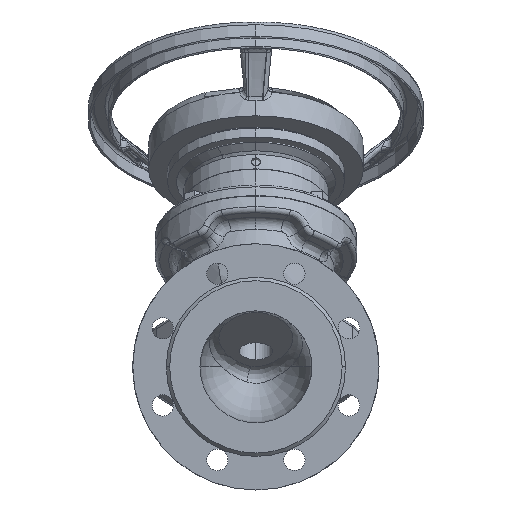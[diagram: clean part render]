
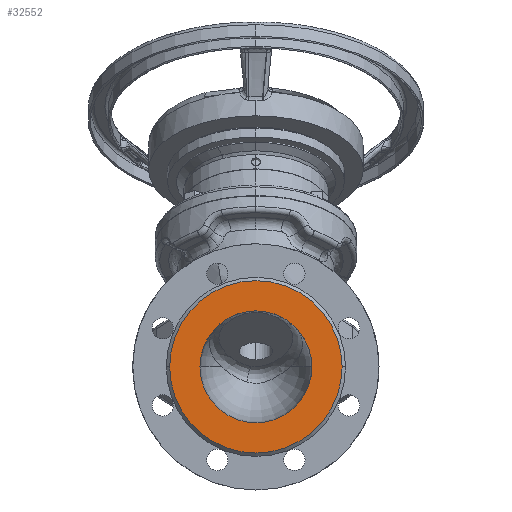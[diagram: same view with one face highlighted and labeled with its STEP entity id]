
A CAD part, front view. The second image highlights one B-rep face of the part: STEP entity #32552.
In plain terms, the highlighted planar face has unit normal (0, -1, 0).
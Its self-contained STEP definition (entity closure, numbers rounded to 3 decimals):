
#1650 = CARTESIAN_POINT ( 'NONE',  ( -77., 0., 0. ) ) ;
#2416 = VERTEX_POINT ( 'NONE', #31924 ) ;
#2497 = CIRCLE ( 'NONE', #47762, 50. ) ;
#2972 = CARTESIAN_POINT ( 'NONE',  ( 0., 0., 0. ) ) ;
#3183 = DIRECTION ( 'NONE',  ( 0., 0., 1. ) ) ;
#5048 = CARTESIAN_POINT ( 'NONE',  ( 0., 0., -50. ) ) ;
#7400 = VERTEX_POINT ( 'NONE', #46956 ) ;
#8061 = CIRCLE ( 'NONE', #29848, 50. ) ;
#10160 = FACE_OUTER_BOUND ( 'NONE', #21087, .T. ) ;
#10632 = ORIENTED_EDGE ( 'NONE', *, *, #28842, .F. ) ;
#10996 = DIRECTION ( 'NONE',  ( 0., -1., 0. ) ) ;
#11196 = ORIENTED_EDGE ( 'NONE', *, *, #58946, .F. ) ;
#14271 = DIRECTION ( 'NONE',  ( 0., 1., 0. ) ) ;
#16680 = DIRECTION ( 'NONE',  ( 0., -1., 0. ) ) ;
#21087 = EDGE_LOOP ( 'NONE', ( #33552, #37556 ) ) ;
#21851 = FACE_BOUND ( 'NONE', #35781, .T. ) ;
#28187 = VERTEX_POINT ( 'NONE', #1650 ) ;
#28842 = EDGE_CURVE ( 'NONE', #2416, #29682, #2497, .T. ) ;
#29681 = CARTESIAN_POINT ( 'NONE',  ( 0., 0., 0. ) ) ;
#29682 = VERTEX_POINT ( 'NONE', #5048 ) ;
#29848 = AXIS2_PLACEMENT_3D ( 'NONE', #40569, #10996, #45447 ) ;
#30477 = CIRCLE ( 'NONE', #42175, 77. ) ;
#31924 = CARTESIAN_POINT ( 'NONE',  ( 0., 0., 50. ) ) ;
#32552 = ADVANCED_FACE ( 'NONE', ( #10160, #21851 ), #37641, .F. ) ;
#32715 = CIRCLE ( 'NONE', #63066, 77. ) ;
#32977 = DIRECTION ( 'NONE',  ( 0., 1., 0. ) ) ;
#33552 = ORIENTED_EDGE ( 'NONE', *, *, #36044, .F. ) ;
#34626 = DIRECTION ( 'NONE',  ( -1., 0., 0. ) ) ;
#35781 = EDGE_LOOP ( 'NONE', ( #10632, #11196 ) ) ;
#36044 = EDGE_CURVE ( 'NONE', #28187, #7400, #30477, .T. ) ;
#37556 = ORIENTED_EDGE ( 'NONE', *, *, #38792, .F. ) ;
#37641 = PLANE ( 'NONE',  #41706 ) ;
#38792 = EDGE_CURVE ( 'NONE', #7400, #28187, #32715, .T. ) ;
#40569 = CARTESIAN_POINT ( 'NONE',  ( 0., 0., 0. ) ) ;
#41706 = AXIS2_PLACEMENT_3D ( 'NONE', #2972, #32977, #3183 ) ;
#42175 = AXIS2_PLACEMENT_3D ( 'NONE', #43807, #14271, #48684 ) ;
#43807 = CARTESIAN_POINT ( 'NONE',  ( 0., 0., 0. ) ) ;
#45447 = DIRECTION ( 'NONE',  ( 0., 0., 1. ) ) ;
#46129 = CARTESIAN_POINT ( 'NONE',  ( 0., 0., 0. ) ) ;
#46956 = CARTESIAN_POINT ( 'NONE',  ( 77., 0., 0. ) ) ;
#47762 = AXIS2_PLACEMENT_3D ( 'NONE', #46129, #16680, #50966 ) ;
#48684 = DIRECTION ( 'NONE',  ( -1., 0., 0. ) ) ;
#50966 = DIRECTION ( 'NONE',  ( 0., 0., 1. ) ) ;
#58946 = EDGE_CURVE ( 'NONE', #29682, #2416, #8061, .T. ) ;
#63066 = AXIS2_PLACEMENT_3D ( 'NONE', #29681, #63325, #34626 ) ;
#63325 = DIRECTION ( 'NONE',  ( 0., 1., 0. ) ) ;
